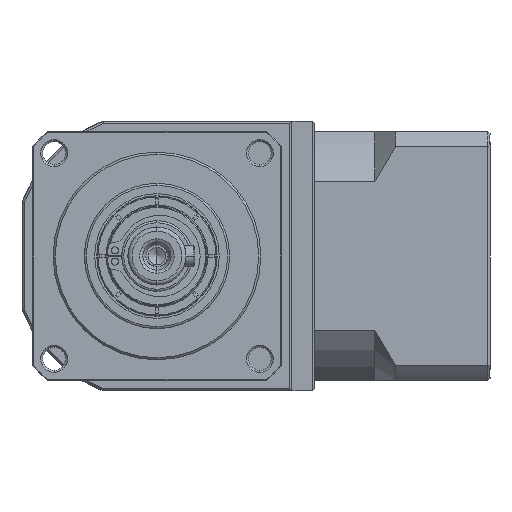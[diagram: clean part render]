
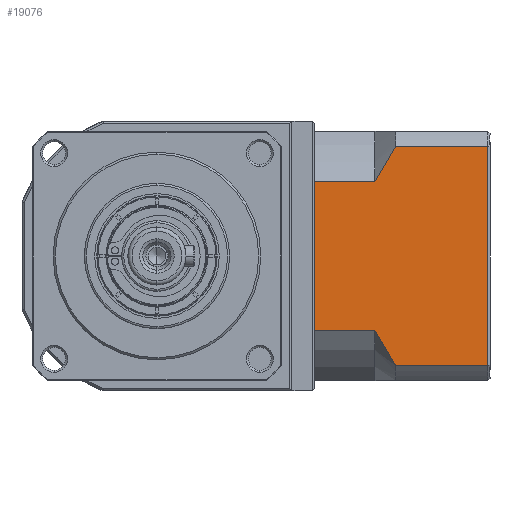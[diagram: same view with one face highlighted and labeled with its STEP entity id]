
A CAD part, left-side view. The second image highlights one B-rep face of the part: STEP entity #19076.
In plain terms, the highlighted planar face has unit normal (-1, 0, 0).
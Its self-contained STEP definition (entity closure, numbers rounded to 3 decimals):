
#367 = VERTEX_POINT ( 'NONE', #55798 ) ;
#1171 = CARTESIAN_POINT ( 'NONE',  ( 13.597, -73.681, -102.949 ) ) ;
#2497 = VECTOR ( 'NONE', #97621, 1000. ) ;
#9374 = EDGE_CURVE ( 'NONE', #153463, #37035, #142120, .T. ) ;
#12773 = ORIENTED_EDGE ( 'NONE', *, *, #46322, .T. ) ;
#13702 = LINE ( 'NONE', #102962, #79570 ) ;
#17544 = CARTESIAN_POINT ( 'NONE',  ( 13.597, -72.933, -140.456 ) ) ;
#18434 = DIRECTION ( 'NONE',  ( 1., 0., 0. ) ) ;
#18613 = B_SPLINE_CURVE_WITH_KNOTS ( 'NONE', 3,
 ( #124758, #112262, #149578, #75399, #1171, #87930 ),
 .UNSPECIFIED., .F., .F.,
 ( 4, 2, 4 ),
 ( 0.052, 0.057, 0.062 ),
 .UNSPECIFIED. ) ;
#19076 = ADVANCED_FACE ( 'NONE', ( #110428 ), #79665, .F. ) ;
#24381 = CARTESIAN_POINT ( 'NONE',  ( 13.597, -77.933, -95.971 ) ) ;
#24951 = VECTOR ( 'NONE', #155705, 1000. ) ;
#26024 = ORIENTED_EDGE ( 'NONE', *, *, #116415, .F. ) ;
#28129 = EDGE_LOOP ( 'NONE', ( #103329, #133719, #120217, #159302, #26024, #12773, #36600, #79724 ) ) ;
#28742 = DIRECTION ( 'NONE',  ( 0., 0., 1. ) ) ;
#35434 = LINE ( 'NONE', #85111, #2497 ) ;
#36600 = ORIENTED_EDGE ( 'NONE', *, *, #156026, .F. ) ;
#37035 = VERTEX_POINT ( 'NONE', #130742 ) ;
#46229 = CARTESIAN_POINT ( 'NONE',  ( 13.597, -76.158, -146.143 ) ) ;
#46322 = EDGE_CURVE ( 'NONE', #81664, #139972, #88036, .T. ) ;
#47717 = CARTESIAN_POINT ( 'NONE',  ( 13.597, -58.433, -152.428 ) ) ;
#49654 = CARTESIAN_POINT ( 'NONE',  ( 13.597, -100.133, -148.886 ) ) ;
#50317 = AXIS2_PLACEMENT_3D ( 'NONE', #92715, #18434, #105191 ) ;
#51577 = VECTOR ( 'NONE', #153478, 1000. ) ;
#55024 = VECTOR ( 'NONE', #146845, 1000. ) ;
#55798 = CARTESIAN_POINT ( 'NONE',  ( 13.597, -72.933, -104.401 ) ) ;
#58759 = CARTESIAN_POINT ( 'NONE',  ( 13.597, -77.933, -148.886 ) ) ;
#66800 = EDGE_CURVE ( 'NONE', #98799, #75940, #13702, .T. ) ;
#68986 = CARTESIAN_POINT ( 'NONE',  ( 13.597, -72.933, -104.401 ) ) ;
#75399 = CARTESIAN_POINT ( 'NONE',  ( 13.597, -74.484, -101.517 ) ) ;
#75940 = VERTEX_POINT ( 'NONE', #136338 ) ;
#79361 = EDGE_CURVE ( 'NONE', #130157, #367, #18613, .T. ) ;
#79570 = VECTOR ( 'NONE', #28742, 1000. ) ;
#79665 = PLANE ( 'NONE',  #50317 ) ;
#79724 = ORIENTED_EDGE ( 'NONE', *, *, #9374, .T. ) ;
#80963 = EDGE_CURVE ( 'NONE', #98799, #37035, #108878, .T. ) ;
#81664 = VERTEX_POINT ( 'NONE', #148533 ) ;
#82469 = CARTESIAN_POINT ( 'NONE',  ( 13.597, -72.933, -140.456 ) ) ;
#85111 = CARTESIAN_POINT ( 'NONE',  ( 13.597, -72.933, -95.971 ) ) ;
#87930 = CARTESIAN_POINT ( 'NONE',  ( 13.597, -72.933, -104.401 ) ) ;
#88036 = LINE ( 'NONE', #47717, #55024 ) ;
#92715 = CARTESIAN_POINT ( 'NONE',  ( 13.597, -100.633, -152.428 ) ) ;
#93664 = DIRECTION ( 'NONE',  ( 0., 1., 0. ) ) ;
#97621 = DIRECTION ( 'NONE',  ( 0., -1., 0. ) ) ;
#98799 = VERTEX_POINT ( 'NONE', #49654 ) ;
#102962 = CARTESIAN_POINT ( 'NONE',  ( 13.597, -100.133, -152.428 ) ) ;
#103329 = ORIENTED_EDGE ( 'NONE', *, *, #80963, .F. ) ;
#105008 = VECTOR ( 'NONE', #93664, 1000. ) ;
#105191 = DIRECTION ( 'NONE',  ( 0., 1., 0. ) ) ;
#108104 = CARTESIAN_POINT ( 'NONE',  ( 13.597, -74.484, -143.338 ) ) ;
#108878 = LINE ( 'NONE', #130432, #105008 ) ;
#110428 = FACE_OUTER_BOUND ( 'NONE', #28129, .T. ) ;
#112262 = CARTESIAN_POINT ( 'NONE',  ( 13.597, -77.033, -97.331 ) ) ;
#116415 = EDGE_CURVE ( 'NONE', #81664, #367, #156760, .T. ) ;
#117534 = LINE ( 'NONE', #17544, #51577 ) ;
#120217 = ORIENTED_EDGE ( 'NONE', *, *, #157677, .F. ) ;
#120530 = CARTESIAN_POINT ( 'NONE',  ( 13.597, -72.933, -140.456 ) ) ;
#124758 = CARTESIAN_POINT ( 'NONE',  ( 13.597, -77.933, -95.971 ) ) ;
#130157 = VERTEX_POINT ( 'NONE', #24381 ) ;
#130432 = CARTESIAN_POINT ( 'NONE',  ( 13.597, -72.933, -148.886 ) ) ;
#130742 = CARTESIAN_POINT ( 'NONE',  ( 13.597, -77.933, -148.886 ) ) ;
#132899 = CARTESIAN_POINT ( 'NONE',  ( 13.597, -77.032, -147.523 ) ) ;
#133719 = ORIENTED_EDGE ( 'NONE', *, *, #66800, .T. ) ;
#136338 = CARTESIAN_POINT ( 'NONE',  ( 13.597, -100.133, -95.971 ) ) ;
#139972 = VERTEX_POINT ( 'NONE', #141153 ) ;
#141153 = CARTESIAN_POINT ( 'NONE',  ( 13.597, -58.433, -140.456 ) ) ;
#142120 = B_SPLINE_CURVE_WITH_KNOTS ( 'NONE', 3,
 ( #120530, #156776, #108104, #46229, #132899, #58759 ),
 .UNSPECIFIED., .F., .F.,
 ( 4, 2, 4 ),
 ( 0.1, 0.104, 0.109 ),
 .UNSPECIFIED. ) ;
#146845 = DIRECTION ( 'NONE',  ( 0., 0., -1. ) ) ;
#148533 = CARTESIAN_POINT ( 'NONE',  ( 13.597, -58.433, -104.401 ) ) ;
#149578 = CARTESIAN_POINT ( 'NONE',  ( 13.597, -76.16, -98.709 ) ) ;
#153463 = VERTEX_POINT ( 'NONE', #82469 ) ;
#153478 = DIRECTION ( 'NONE',  ( 0., 1., 0. ) ) ;
#155705 = DIRECTION ( 'NONE',  ( 0., -1., 0. ) ) ;
#156026 = EDGE_CURVE ( 'NONE', #153463, #139972, #117534, .T. ) ;
#156760 = LINE ( 'NONE', #68986, #24951 ) ;
#156776 = CARTESIAN_POINT ( 'NONE',  ( 13.597, -73.683, -141.913 ) ) ;
#157677 = EDGE_CURVE ( 'NONE', #130157, #75940, #35434, .T. ) ;
#159302 = ORIENTED_EDGE ( 'NONE', *, *, #79361, .T. ) ;
